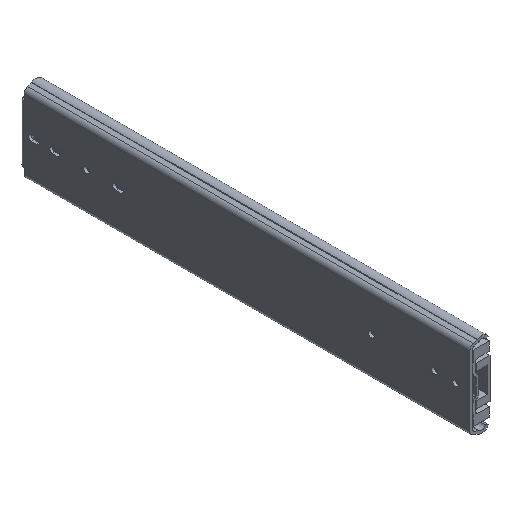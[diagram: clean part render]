
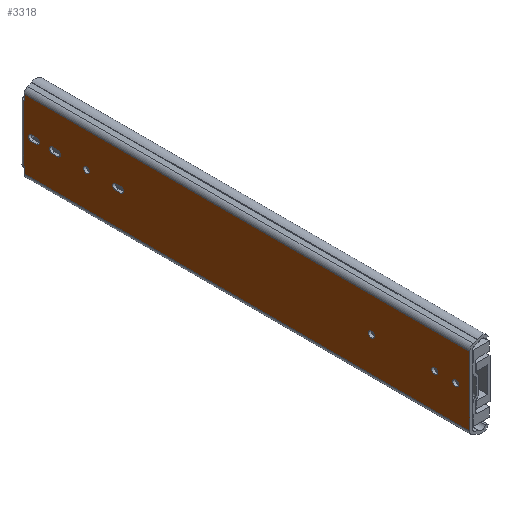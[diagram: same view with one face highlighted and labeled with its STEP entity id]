
A CAD part, isometric view. The second image highlights one B-rep face of the part: STEP entity #3318.
In plain terms, the highlighted planar face has unit normal (-1, 0, 0).
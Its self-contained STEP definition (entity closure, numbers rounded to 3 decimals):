
#129=PLANE('',#4014);
#383=LINE('',#5663,#714);
#390=LINE('',#5692,#721);
#391=LINE('',#5697,#722);
#406=LINE('',#5744,#737);
#413=LINE('',#5769,#744);
#423=LINE('',#5798,#754);
#426=LINE('',#5820,#757);
#430=LINE('',#5832,#761);
#434=LINE('',#5848,#765);
#441=LINE('',#5867,#772);
#444=LINE('',#5876,#775);
#450=LINE('',#5907,#781);
#456=LINE('',#5923,#787);
#457=LINE('',#5925,#788);
#714=VECTOR('',#4686,1000.);
#721=VECTOR('',#4715,1000.);
#722=VECTOR('',#4720,1000.);
#737=VECTOR('',#4765,1000.);
#744=VECTOR('',#4790,1000.);
#754=VECTOR('',#4822,1000.);
#757=VECTOR('',#4845,1000.);
#761=VECTOR('',#4857,1000.);
#765=VECTOR('',#4875,1000.);
#772=VECTOR('',#4890,1000.);
#775=VECTOR('',#4901,1000.);
#781=VECTOR('',#4927,1000.);
#787=VECTOR('',#4947,1000.);
#788=VECTOR('',#4950,1000.);
#1689=ORIENTED_EDGE('',*,*,#2212,.F.);
#1690=ORIENTED_EDGE('',*,*,#2171,.T.);
#1691=ORIENTED_EDGE('',*,*,#2175,.F.);
#1692=ORIENTED_EDGE('',*,*,#2210,.T.);
#1693=ORIENTED_EDGE('',*,*,#2189,.T.);
#1694=ORIENTED_EDGE('',*,*,#2187,.T.);
#1695=ORIENTED_EDGE('',*,*,#2184,.T.);
#1696=ORIENTED_EDGE('',*,*,#2181,.T.);
#1697=ORIENTED_EDGE('',*,*,#2164,.F.);
#1698=ORIENTED_EDGE('',*,*,#2161,.F.);
#1699=ORIENTED_EDGE('',*,*,#2170,.F.);
#1700=ORIENTED_EDGE('',*,*,#2167,.F.);
#1701=ORIENTED_EDGE('',*,*,#2157,.F.);
#1702=ORIENTED_EDGE('',*,*,#2155,.F.);
#1703=ORIENTED_EDGE('',*,*,#2153,.F.);
#1704=ORIENTED_EDGE('',*,*,#2196,.F.);
#1705=ORIENTED_EDGE('',*,*,#2213,.T.);
#1706=ORIENTED_EDGE('',*,*,#2137,.F.);
#1707=ORIENTED_EDGE('',*,*,#2202,.T.);
#1708=ORIENTED_EDGE('',*,*,#2085,.T.);
#1709=ORIENTED_EDGE('',*,*,#2152,.T.);
#1710=ORIENTED_EDGE('',*,*,#2099,.F.);
#1711=ORIENTED_EDGE('',*,*,#2124,.F.);
#1712=ORIENTED_EDGE('',*,*,#2101,.T.);
#2085=EDGE_CURVE('',#2453,#2452,#383,.T.);
#2099=EDGE_CURVE('',#2463,#2462,#390,.T.);
#2101=EDGE_CURVE('',#2466,#2465,#391,.T.);
#2124=EDGE_CURVE('',#2466,#2463,#406,.T.);
#2137=EDGE_CURVE('',#2491,#2492,#413,.T.);
#2152=EDGE_CURVE('',#2452,#2462,#423,.T.);
#2153=EDGE_CURVE('',#2500,#2500,#2659,.T.);
#2155=EDGE_CURVE('',#2502,#2502,#2661,.T.);
#2157=EDGE_CURVE('',#2504,#2504,#2663,.T.);
#2161=EDGE_CURVE('',#2508,#2509,#426,.T.);
#2164=EDGE_CURVE('',#2509,#2511,#2666,.T.);
#2167=EDGE_CURVE('',#2511,#2513,#430,.T.);
#2170=EDGE_CURVE('',#2513,#2508,#2668,.T.);
#2171=EDGE_CURVE('',#2514,#2515,#2669,.T.);
#2175=EDGE_CURVE('',#2518,#2515,#434,.T.);
#2181=EDGE_CURVE('',#2521,#2523,#2672,.T.);
#2184=EDGE_CURVE('',#2525,#2521,#441,.T.);
#2187=EDGE_CURVE('',#2527,#2525,#2674,.T.);
#2189=EDGE_CURVE('',#2523,#2527,#444,.T.);
#2196=EDGE_CURVE('',#2534,#2534,#2677,.T.);
#2202=EDGE_CURVE('',#2491,#2453,#450,.T.);
#2210=EDGE_CURVE('',#2518,#2541,#2680,.T.);
#2212=EDGE_CURVE('',#2514,#2541,#456,.T.);
#2213=EDGE_CURVE('',#2465,#2492,#457,.T.);
#2452=VERTEX_POINT('',#5662);
#2453=VERTEX_POINT('',#5664);
#2462=VERTEX_POINT('',#5689);
#2463=VERTEX_POINT('',#5691);
#2465=VERTEX_POINT('',#5696);
#2466=VERTEX_POINT('',#5698);
#2491=VERTEX_POINT('',#5768);
#2492=VERTEX_POINT('',#5770);
#2500=VERTEX_POINT('',#5801);
#2502=VERTEX_POINT('',#5806);
#2504=VERTEX_POINT('',#5811);
#2508=VERTEX_POINT('',#5819);
#2509=VERTEX_POINT('',#5821);
#2511=VERTEX_POINT('',#5827);
#2513=VERTEX_POINT('',#5833);
#2514=VERTEX_POINT('',#5840);
#2515=VERTEX_POINT('',#5841);
#2518=VERTEX_POINT('',#5849);
#2521=VERTEX_POINT('',#5856);
#2523=VERTEX_POINT('',#5860);
#2525=VERTEX_POINT('',#5865);
#2527=VERTEX_POINT('',#5871);
#2534=VERTEX_POINT('',#5892);
#2541=VERTEX_POINT('',#5920);
#2659=CIRCLE('',#3968,2.6);
#2661=CIRCLE('',#3971,2.6);
#2663=CIRCLE('',#3974,2.6);
#2666=CIRCLE('',#3979,2.6);
#2668=CIRCLE('',#3983,2.6);
#2669=CIRCLE('',#3985,2.6);
#2672=CIRCLE('',#3990,2.619);
#2674=CIRCLE('',#3994,2.619);
#2677=CIRCLE('',#4000,2.6);
#2680=CIRCLE('',#4011,2.6);
#2872=EDGE_LOOP('',(#1689,#1690,#1691,#1692));
#2873=EDGE_LOOP('',(#1693,#1694,#1695,#1696));
#2874=EDGE_LOOP('',(#1697,#1698,#1699,#1700));
#2875=EDGE_LOOP('',(#1701));
#2876=EDGE_LOOP('',(#1702));
#2877=EDGE_LOOP('',(#1703));
#2878=EDGE_LOOP('',(#1704));
#2879=EDGE_LOOP('',(#1705,#1706,#1707,#1708,#1709,#1710,#1711,#1712));
#3077=FACE_BOUND('',#2872,.T.);
#3078=FACE_BOUND('',#2873,.T.);
#3079=FACE_BOUND('',#2874,.T.);
#3080=FACE_BOUND('',#2875,.T.);
#3081=FACE_BOUND('',#2876,.T.);
#3082=FACE_BOUND('',#2877,.T.);
#3083=FACE_BOUND('',#2878,.T.);
#3084=FACE_BOUND('',#2879,.T.);
#3318=ADVANCED_FACE('',(#3077,#3078,#3079,#3080,#3081,#3082,#3083,#3084),
#129,.F.);
#3968=AXIS2_PLACEMENT_3D('',#5800,#4825,#4826);
#3971=AXIS2_PLACEMENT_3D('',#5805,#4831,#4832);
#3974=AXIS2_PLACEMENT_3D('',#5810,#4837,#4838);
#3979=AXIS2_PLACEMENT_3D('',#5826,#4851,#4852);
#3983=AXIS2_PLACEMENT_3D('',#5837,#4863,#4864);
#3985=AXIS2_PLACEMENT_3D('',#5839,#4867,#4868);
#3990=AXIS2_PLACEMENT_3D('',#5861,#4884,#4885);
#3994=AXIS2_PLACEMENT_3D('',#5873,#4896,#4897);
#4000=AXIS2_PLACEMENT_3D('',#5891,#4914,#4915);
#4011=AXIS2_PLACEMENT_3D('',#5919,#4942,#4943);
#4014=AXIS2_PLACEMENT_3D('',#5927,#4952,#4953);
#4686=DIRECTION('',(0.,-1.,0.));
#4715=DIRECTION('',(0.,1.,0.));
#4720=DIRECTION('',(0.,1.,0.));
#4765=DIRECTION('',(0.,0.,-1.));
#4790=DIRECTION('',(0.,-1.,0.));
#4822=DIRECTION('',(0.,0.,-1.));
#4825=DIRECTION('',(-1.,0.,0.));
#4826=DIRECTION('',(0.,1.,0.));
#4831=DIRECTION('',(-1.,0.,0.));
#4832=DIRECTION('',(0.,1.,0.));
#4837=DIRECTION('',(-1.,0.,0.));
#4838=DIRECTION('',(0.,1.,0.));
#4845=DIRECTION('',(0.,-1.,0.));
#4851=DIRECTION('',(-1.,0.,0.));
#4852=DIRECTION('',(0.,1.,0.));
#4857=DIRECTION('',(0.,1.,0.));
#4863=DIRECTION('',(-1.,0.,0.));
#4864=DIRECTION('',(0.,-1.,0.));
#4867=DIRECTION('',(1.,0.,0.));
#4868=DIRECTION('',(0.,0.,-1.));
#4875=DIRECTION('',(0.,1.,0.));
#4884=DIRECTION('',(1.,0.,0.));
#4885=DIRECTION('',(0.,0.,-1.));
#4890=DIRECTION('',(0.,1.,0.));
#4896=DIRECTION('',(1.,0.,0.));
#4897=DIRECTION('',(0.,0.,-1.));
#4901=DIRECTION('',(0.,-1.,0.));
#4914=DIRECTION('',(-1.,0.,0.));
#4915=DIRECTION('',(0.,1.,0.));
#4927=DIRECTION('',(0.,0.,-1.));
#4942=DIRECTION('',(1.,0.,0.));
#4943=DIRECTION('',(0.,0.,-1.));
#4947=DIRECTION('',(0.,-1.,0.));
#4950=DIRECTION('',(0.,0.,-1.));
#4952=DIRECTION('',(1.,0.,0.));
#4953=DIRECTION('',(0.,0.,-1.));
#5662=CARTESIAN_POINT('',(0.,402.4,-26.15));
#5663=CARTESIAN_POINT('',(0.,402.9,-26.15));
#5664=CARTESIAN_POINT('',(0.,402.9,-26.15));
#5689=CARTESIAN_POINT('',(0.,402.4,-31.142));
#5691=CARTESIAN_POINT('',(0.,0.,-31.142));
#5692=CARTESIAN_POINT('',(0.,0.,-31.142));
#5696=CARTESIAN_POINT('',(0.,402.4,31.132));
#5697=CARTESIAN_POINT('',(0.,0.,31.132));
#5698=CARTESIAN_POINT('',(0.,0.,31.132));
#5744=CARTESIAN_POINT('',(0.,0.,31.132));
#5768=CARTESIAN_POINT('',(0.,402.9,26.15));
#5769=CARTESIAN_POINT('',(0.,402.9,26.15));
#5770=CARTESIAN_POINT('',(0.,402.4,26.15));
#5798=CARTESIAN_POINT('',(0.,402.4,31.132));
#5800=CARTESIAN_POINT('',(0.,31.75,-0.006));
#5801=CARTESIAN_POINT('',(0.,34.35,-0.006));
#5805=CARTESIAN_POINT('',(0.,88.9,-0.006));
#5806=CARTESIAN_POINT('',(0.,91.5,-0.006));
#5810=CARTESIAN_POINT('',(0.,346.1,-0.006));
#5811=CARTESIAN_POINT('',(0.,348.7,-0.006));
#5819=CARTESIAN_POINT('',(0.,319.8,-2.605));
#5820=CARTESIAN_POINT('',(0.,319.8,-2.605));
#5821=CARTESIAN_POINT('',(0.,315.2,-2.605));
#5826=CARTESIAN_POINT('',(0.,315.2,-0.005));
#5827=CARTESIAN_POINT('',(0.,315.2,2.595));
#5832=CARTESIAN_POINT('',(0.,319.8,2.595));
#5833=CARTESIAN_POINT('',(0.,319.8,2.595));
#5837=CARTESIAN_POINT('',(0.,319.8,-0.005));
#5839=CARTESIAN_POINT('',(0.,396.,-0.006));
#5840=CARTESIAN_POINT('',(0.,396.,-2.606));
#5841=CARTESIAN_POINT('',(0.,396.,2.594));
#5848=CARTESIAN_POINT('',(0.,0.,2.594));
#5849=CARTESIAN_POINT('',(0.,391.4,2.594));
#5856=CARTESIAN_POINT('',(0.,377.199,-2.606));
#5860=CARTESIAN_POINT('',(0.,377.199,2.594));
#5861=CARTESIAN_POINT('',(0.,376.881,-0.006));
#5865=CARTESIAN_POINT('',(0.,372.001,-2.606));
#5867=CARTESIAN_POINT('',(0.,0.,-2.606));
#5871=CARTESIAN_POINT('',(0.,372.001,2.594));
#5873=CARTESIAN_POINT('',(0.,372.319,-0.006));
#5876=CARTESIAN_POINT('',(0.,0.,2.594));
#5891=CARTESIAN_POINT('',(0.,12.7,-0.006));
#5892=CARTESIAN_POINT('',(0.,15.3,-0.006));
#5907=CARTESIAN_POINT('',(0.,402.9,26.15));
#5919=CARTESIAN_POINT('',(0.,391.4,-0.006));
#5920=CARTESIAN_POINT('',(0.,391.4,-2.606));
#5923=CARTESIAN_POINT('',(0.,0.,-2.606));
#5925=CARTESIAN_POINT('',(0.,402.4,31.132));
#5927=CARTESIAN_POINT('',(0.,0.,31.132));
